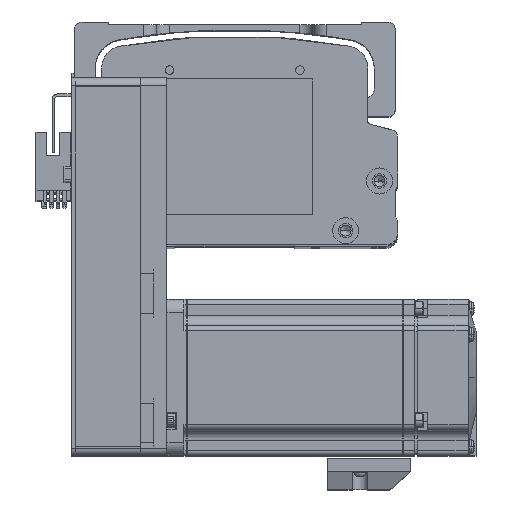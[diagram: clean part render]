
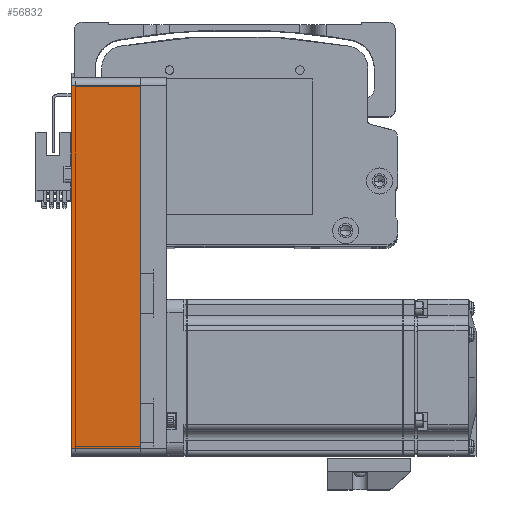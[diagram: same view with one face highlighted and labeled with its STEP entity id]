
A CAD part, top view. The second image highlights one B-rep face of the part: STEP entity #56832.
In plain terms, the highlighted planar face has unit normal (0, 0, 1) as drawn and (0, 1, 0) by its records, which use the part's own axes.
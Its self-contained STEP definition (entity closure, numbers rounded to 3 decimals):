
#675 = CARTESIAN_POINT ( 'NONE',  ( 72.5, 30., 26.5 ) ) ;
#1702 = EDGE_CURVE ( 'NONE', #74225, #66422, #60784, .T. ) ;
#3964 = FACE_OUTER_BOUND ( 'NONE', #25562, .T. ) ;
#7019 = DIRECTION ( 'NONE',  ( 1., 0., 0. ) ) ;
#8255 = CARTESIAN_POINT ( 'NONE',  ( 72.5, 30., 0. ) ) ;
#9918 = LINE ( 'NONE', #53642, #41224 ) ;
#9925 = DIRECTION ( 'NONE',  ( 0., 0., 1. ) ) ;
#10593 = LINE ( 'NONE', #70311, #75156 ) ;
#11661 = AXIS2_PLACEMENT_3D ( 'NONE', #675, #44478, #7019 ) ;
#12761 = LINE ( 'NONE', #45074, #77305 ) ;
#12995 = PLANE ( 'NONE',  #11661 ) ;
#19271 = EDGE_CURVE ( 'NONE', #25132, #66419, #10593, .T. ) ;
#22157 = ORIENTED_EDGE ( 'NONE', *, *, #29737, .T. ) ;
#25086 = ORIENTED_EDGE ( 'NONE', *, *, #1702, .T. ) ;
#25132 = VERTEX_POINT ( 'NONE', #36008 ) ;
#25562 = EDGE_LOOP ( 'NONE', ( #25086, #22157, #49063, #71451 ) ) ;
#29737 = EDGE_CURVE ( 'NONE', #66422, #66419, #9918, .T. ) ;
#34783 = CARTESIAN_POINT ( 'NONE',  ( 69.5, 30., 0. ) ) ;
#36008 = CARTESIAN_POINT ( 'NONE',  ( 69.5, 30., 26.5 ) ) ;
#41224 = VECTOR ( 'NONE', #9925, 1000. ) ;
#44478 = DIRECTION ( 'NONE',  ( 0., -1., 0. ) ) ;
#45074 = CARTESIAN_POINT ( 'NONE',  ( 69.5, 30., 26.5 ) ) ;
#45477 = DIRECTION ( 'NONE',  ( -1., 0., 0. ) ) ;
#46174 = VECTOR ( 'NONE', #51714, 1000. ) ;
#46712 = CARTESIAN_POINT ( 'NONE',  ( -69.5, 30., 26.5 ) ) ;
#49063 = ORIENTED_EDGE ( 'NONE', *, *, #19271, .F. ) ;
#51714 = DIRECTION ( 'NONE',  ( -1., 0., 0. ) ) ;
#52993 = CARTESIAN_POINT ( 'NONE',  ( -69.5, 30., 0. ) ) ;
#53642 = CARTESIAN_POINT ( 'NONE',  ( -69.5, 30., 26.5 ) ) ;
#56832 = ADVANCED_FACE ( 'NONE', ( #3964 ), #12995, .F. ) ;
#59852 = EDGE_CURVE ( 'NONE', #25132, #74225, #12761, .T. ) ;
#60784 = LINE ( 'NONE', #8255, #46174 ) ;
#66419 = VERTEX_POINT ( 'NONE', #46712 ) ;
#66422 = VERTEX_POINT ( 'NONE', #52993 ) ;
#70199 = DIRECTION ( 'NONE',  ( 0., 0., -1. ) ) ;
#70311 = CARTESIAN_POINT ( 'NONE',  ( 72.5, 30., 26.5 ) ) ;
#71451 = ORIENTED_EDGE ( 'NONE', *, *, #59852, .T. ) ;
#74225 = VERTEX_POINT ( 'NONE', #34783 ) ;
#75156 = VECTOR ( 'NONE', #45477, 1000. ) ;
#77305 = VECTOR ( 'NONE', #70199, 1000. ) ;
